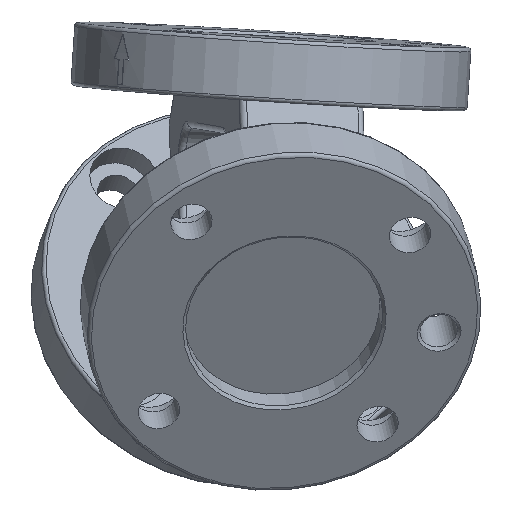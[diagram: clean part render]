
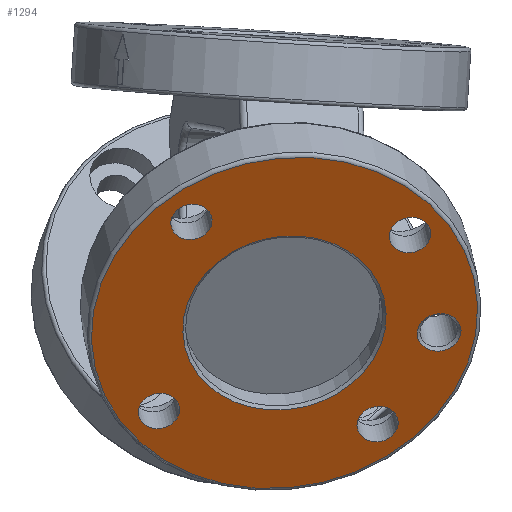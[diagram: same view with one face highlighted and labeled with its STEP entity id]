
A CAD part, isometric view. The second image highlights one B-rep face of the part: STEP entity #1294.
In plain terms, the highlighted planar face has unit normal (-0.612, -0.789, 0.057) as drawn and (0, 0, 1) by its records, which use the part's own axes.
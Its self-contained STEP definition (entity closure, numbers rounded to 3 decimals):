
#73=FACE_BOUND('',#349,.T.);
#74=FACE_BOUND('',#350,.T.);
#75=FACE_BOUND('',#351,.T.);
#76=FACE_BOUND('',#352,.T.);
#77=FACE_BOUND('',#353,.T.);
#78=FACE_BOUND('',#354,.T.);
#123=CIRCLE('',#1455,3.3);
#129=CIRCLE('',#1464,3.3);
#135=CIRCLE('',#1473,3.3);
#141=CIRCLE('',#1482,3.3);
#154=CIRCLE('',#1511,16.26);
#155=CIRCLE('',#1513,30.9);
#156=CIRCLE('',#1514,30.9);
#157=CIRCLE('',#1515,3.51);
#192=PLANE('',#1512);
#261=FACE_OUTER_BOUND('',#348,.T.);
#348=EDGE_LOOP('',(#1157,#1158));
#349=EDGE_LOOP('',(#1159));
#350=EDGE_LOOP('',(#1160));
#351=EDGE_LOOP('',(#1161));
#352=EDGE_LOOP('',(#1162));
#353=EDGE_LOOP('',(#1163));
#354=EDGE_LOOP('',(#1164));
#609=VERTEX_POINT('',#2214);
#615=VERTEX_POINT('',#2231);
#621=VERTEX_POINT('',#2248);
#627=VERTEX_POINT('',#2265);
#648=VERTEX_POINT('',#2329);
#649=VERTEX_POINT('',#2333);
#650=VERTEX_POINT('',#2334);
#651=VERTEX_POINT('',#2337);
#767=EDGE_CURVE('',#609,#609,#123,.T.);
#775=EDGE_CURVE('',#615,#615,#129,.T.);
#783=EDGE_CURVE('',#621,#621,#135,.T.);
#791=EDGE_CURVE('',#627,#627,#141,.T.);
#823=EDGE_CURVE('',#648,#648,#154,.T.);
#824=EDGE_CURVE('',#649,#650,#155,.T.);
#825=EDGE_CURVE('',#650,#649,#156,.T.);
#826=EDGE_CURVE('',#651,#651,#157,.T.);
#1157=ORIENTED_EDGE('',*,*,#824,.F.);
#1158=ORIENTED_EDGE('',*,*,#825,.F.);
#1159=ORIENTED_EDGE('',*,*,#767,.T.);
#1160=ORIENTED_EDGE('',*,*,#775,.T.);
#1161=ORIENTED_EDGE('',*,*,#783,.T.);
#1162=ORIENTED_EDGE('',*,*,#791,.T.);
#1163=ORIENTED_EDGE('',*,*,#826,.F.);
#1164=ORIENTED_EDGE('',*,*,#823,.F.);
#1294=ADVANCED_FACE('',(#261,#73,#74,#75,#76,#77,#78),#192,.T.);
#1455=AXIS2_PLACEMENT_3D('',#2215,#1800,#1801);
#1464=AXIS2_PLACEMENT_3D('',#2232,#1820,#1821);
#1473=AXIS2_PLACEMENT_3D('',#2249,#1840,#1841);
#1482=AXIS2_PLACEMENT_3D('',#2266,#1860,#1861);
#1511=AXIS2_PLACEMENT_3D('',#2331,#1933,#1934);
#1512=AXIS2_PLACEMENT_3D('',#2332,#1935,#1936);
#1513=AXIS2_PLACEMENT_3D('',#2335,#1937,#1938);
#1514=AXIS2_PLACEMENT_3D('',#2336,#1939,#1940);
#1515=AXIS2_PLACEMENT_3D('',#2338,#1941,#1942);
#1800=DIRECTION('center_axis',(0.,0.,-1.));
#1801=DIRECTION('ref_axis',(-1.,0.,0.));
#1820=DIRECTION('center_axis',(0.,0.,-1.));
#1821=DIRECTION('ref_axis',(-1.,0.,0.));
#1840=DIRECTION('center_axis',(0.,0.,-1.));
#1841=DIRECTION('ref_axis',(-1.,0.,0.));
#1860=DIRECTION('center_axis',(0.,0.,-1.));
#1861=DIRECTION('ref_axis',(-1.,0.,0.));
#1933=DIRECTION('center_axis',(0.,0.,1.));
#1934=DIRECTION('ref_axis',(-1.,0.,0.));
#1935=DIRECTION('center_axis',(0.,0.,1.));
#1936=DIRECTION('ref_axis',(1.,0.,0.));
#1937=DIRECTION('center_axis',(0.,0.,-1.));
#1938=DIRECTION('ref_axis',(-1.,0.,0.));
#1939=DIRECTION('center_axis',(0.,0.,-1.));
#1940=DIRECTION('ref_axis',(-1.,0.,0.));
#1941=DIRECTION('center_axis',(0.,0.,1.));
#1942=DIRECTION('ref_axis',(-1.,0.,0.));
#2214=CARTESIAN_POINT('',(20.978,-17.678,10.));
#2215=CARTESIAN_POINT('Origin',(17.678,-17.678,10.));
#2231=CARTESIAN_POINT('',(-14.378,17.678,10.));
#2232=CARTESIAN_POINT('Origin',(-17.678,17.678,10.));
#2248=CARTESIAN_POINT('',(-14.378,-17.678,10.));
#2249=CARTESIAN_POINT('Origin',(-17.678,-17.678,10.));
#2265=CARTESIAN_POINT('',(20.978,17.678,10.));
#2266=CARTESIAN_POINT('Origin',(17.678,17.678,10.));
#2329=CARTESIAN_POINT('',(16.26,0.,10.));
#2331=CARTESIAN_POINT('Origin',(0.,0.,10.));
#2332=CARTESIAN_POINT('Origin',(0.,0.,
10.));
#2333=CARTESIAN_POINT('',(30.9,0.,10.));
#2334=CARTESIAN_POINT('',(-30.9,0.,10.));
#2335=CARTESIAN_POINT('Origin',(0.,0.,10.));
#2336=CARTESIAN_POINT('Origin',(0.,0.,10.));
#2337=CARTESIAN_POINT('',(28.51,0.,10.));
#2338=CARTESIAN_POINT('Origin',(25.,0.,10.));
